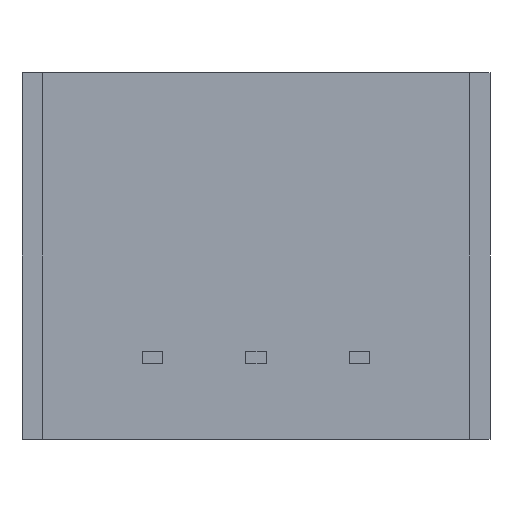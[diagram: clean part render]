
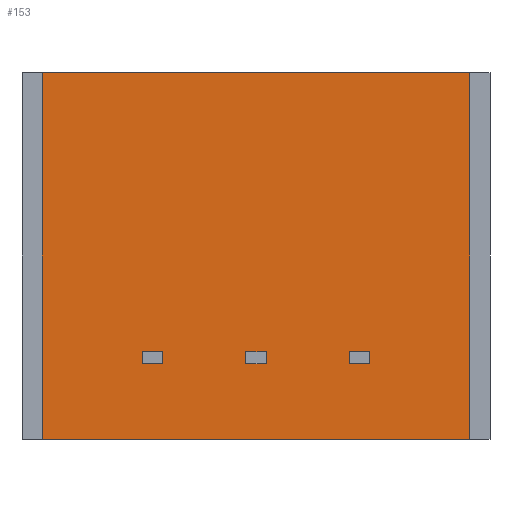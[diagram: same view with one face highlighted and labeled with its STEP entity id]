
A CAD part, front view. The second image highlights one B-rep face of the part: STEP entity #153.
In plain terms, the highlighted planar face has unit normal (0, -1, 0).
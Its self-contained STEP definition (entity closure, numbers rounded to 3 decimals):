
#148=FACE_BOUND('',#227,.T.);
#149=FACE_BOUND('',#228,.T.);
#150=FACE_BOUND('',#229,.T.);
#151=FACE_BOUND('',#230,.T.);
#153=ADVANCED_FACE('',(#148,#149,#150,#151),#178,.F.);
#178=PLANE('',#596);
#227=EDGE_LOOP('',(#262,#263,#264,#265));
#228=EDGE_LOOP('',(#266,#267,#268,#269));
#229=EDGE_LOOP('',(#270,#271,#272,#273));
#230=EDGE_LOOP('',(#274,#275,#276,#277));
#262=ORIENTED_EDGE('',*,*,#422,.F.);
#263=ORIENTED_EDGE('',*,*,#423,.F.);
#264=ORIENTED_EDGE('',*,*,#424,.F.);
#265=ORIENTED_EDGE('',*,*,#425,.F.);
#266=ORIENTED_EDGE('',*,*,#426,.T.);
#267=ORIENTED_EDGE('',*,*,#416,.F.);
#268=ORIENTED_EDGE('',*,*,#427,.F.);
#269=ORIENTED_EDGE('',*,*,#428,.F.);
#270=ORIENTED_EDGE('',*,*,#429,.F.);
#271=ORIENTED_EDGE('',*,*,#430,.F.);
#272=ORIENTED_EDGE('',*,*,#431,.F.);
#273=ORIENTED_EDGE('',*,*,#432,.F.);
#274=ORIENTED_EDGE('',*,*,#433,.F.);
#275=ORIENTED_EDGE('',*,*,#434,.F.);
#276=ORIENTED_EDGE('',*,*,#435,.F.);
#277=ORIENTED_EDGE('',*,*,#436,.F.);
#376=VERTEX_POINT('',#737);
#377=VERTEX_POINT('',#739);
#382=VERTEX_POINT('',#751);
#383=VERTEX_POINT('',#752);
#384=VERTEX_POINT('',#754);
#385=VERTEX_POINT('',#756);
#386=VERTEX_POINT('',#759);
#387=VERTEX_POINT('',#761);
#388=VERTEX_POINT('',#764);
#389=VERTEX_POINT('',#765);
#390=VERTEX_POINT('',#767);
#391=VERTEX_POINT('',#769);
#392=VERTEX_POINT('',#772);
#393=VERTEX_POINT('',#773);
#394=VERTEX_POINT('',#775);
#395=VERTEX_POINT('',#777);
#416=EDGE_CURVE('',#376,#377,#476,.T.);
#422=EDGE_CURVE('',#382,#383,#482,.T.);
#423=EDGE_CURVE('',#384,#382,#483,.T.);
#424=EDGE_CURVE('',#385,#384,#484,.T.);
#425=EDGE_CURVE('',#383,#385,#485,.T.);
#426=EDGE_CURVE('',#386,#377,#486,.T.);
#427=EDGE_CURVE('',#387,#376,#487,.T.);
#428=EDGE_CURVE('',#386,#387,#488,.T.);
#429=EDGE_CURVE('',#388,#389,#489,.T.);
#430=EDGE_CURVE('',#390,#388,#490,.T.);
#431=EDGE_CURVE('',#391,#390,#491,.T.);
#432=EDGE_CURVE('',#389,#391,#492,.T.);
#433=EDGE_CURVE('',#392,#393,#493,.T.);
#434=EDGE_CURVE('',#394,#392,#494,.T.);
#435=EDGE_CURVE('',#395,#394,#495,.T.);
#436=EDGE_CURVE('',#393,#395,#496,.T.);
#476=LINE('',#738,#536);
#482=LINE('',#750,#542);
#483=LINE('',#753,#543);
#484=LINE('',#755,#544);
#485=LINE('',#757,#545);
#486=LINE('',#758,#546);
#487=LINE('',#760,#547);
#488=LINE('',#762,#548);
#489=LINE('',#763,#549);
#490=LINE('',#766,#550);
#491=LINE('',#768,#551);
#492=LINE('',#770,#552);
#493=LINE('',#771,#553);
#494=LINE('',#774,#554);
#495=LINE('',#776,#555);
#496=LINE('',#778,#556);
#536=VECTOR('',#624,1.);
#542=VECTOR('',#632,1.);
#543=VECTOR('',#633,1.);
#544=VECTOR('',#634,1.);
#545=VECTOR('',#635,1.);
#546=VECTOR('',#636,1.);
#547=VECTOR('',#637,1.);
#548=VECTOR('',#638,1.);
#549=VECTOR('',#639,1.);
#550=VECTOR('',#640,1.);
#551=VECTOR('',#641,1.);
#552=VECTOR('',#642,1.);
#553=VECTOR('',#643,1.);
#554=VECTOR('',#644,1.);
#555=VECTOR('',#645,1.);
#556=VECTOR('',#646,1.);
#596=AXIS2_PLACEMENT_3D('',#779,#647,#648);
#624=DIRECTION('',(1.,0.,0.));
#632=DIRECTION('',(0.,0.,1.));
#633=DIRECTION('',(1.,0.,0.));
#634=DIRECTION('',(0.,0.,-1.));
#635=DIRECTION('',(-1.,0.,0.));
#636=DIRECTION('',(0.,0.,1.));
#637=DIRECTION('',(0.,0.,1.));
#638=DIRECTION('',(-1.,0.,0.));
#639=DIRECTION('',(0.,0.,1.));
#640=DIRECTION('',(1.,0.,0.));
#641=DIRECTION('',(0.,0.,-1.));
#642=DIRECTION('',(-1.,0.,0.));
#643=DIRECTION('',(0.,0.,1.));
#644=DIRECTION('',(1.,0.,0.));
#645=DIRECTION('',(0.,0.,-1.));
#646=DIRECTION('',(-1.,0.,0.));
#647=DIRECTION('',(0.,1.,0.));
#648=DIRECTION('',(0.,0.,-1.));
#737=CARTESIAN_POINT('',(-5.25,0.5,4.5));
#738=CARTESIAN_POINT('',(-5.75,0.5,4.5));
#739=CARTESIAN_POINT('',(5.25,0.5,4.5));
#750=CARTESIAN_POINT('',(2.79,0.5,-2.65));
#751=CARTESIAN_POINT('',(2.79,0.5,-2.65));
#752=CARTESIAN_POINT('',(2.79,0.5,-2.35));
#753=CARTESIAN_POINT('',(2.29,0.5,-2.65));
#754=CARTESIAN_POINT('',(2.29,0.5,-2.65));
#755=CARTESIAN_POINT('',(2.29,0.5,-2.65));
#756=CARTESIAN_POINT('',(2.29,0.5,-2.35));
#757=CARTESIAN_POINT('',(2.29,0.5,-2.35));
#758=CARTESIAN_POINT('',(5.25,0.5,-8.75));
#759=CARTESIAN_POINT('',(5.25,0.5,-4.5));
#760=CARTESIAN_POINT('',(-5.25,0.5,-8.75));
#761=CARTESIAN_POINT('',(-5.25,0.5,-4.5));
#762=CARTESIAN_POINT('',(-5.75,0.5,-4.5));
#763=CARTESIAN_POINT('',(0.25,0.5,-2.65));
#764=CARTESIAN_POINT('',(0.25,0.5,-2.65));
#765=CARTESIAN_POINT('',(0.25,0.5,-2.35));
#766=CARTESIAN_POINT('',(-0.25,0.5,-2.65));
#767=CARTESIAN_POINT('',(-0.25,0.5,-2.65));
#768=CARTESIAN_POINT('',(-0.25,0.5,-2.65));
#769=CARTESIAN_POINT('',(-0.25,0.5,-2.35));
#770=CARTESIAN_POINT('',(-0.25,0.5,-2.35));
#771=CARTESIAN_POINT('',(-2.29,0.5,-2.65));
#772=CARTESIAN_POINT('',(-2.29,0.5,-2.65));
#773=CARTESIAN_POINT('',(-2.29,0.5,-2.35));
#774=CARTESIAN_POINT('',(-2.79,0.5,-2.65));
#775=CARTESIAN_POINT('',(-2.79,0.5,-2.65));
#776=CARTESIAN_POINT('',(-2.79,0.5,-2.65));
#777=CARTESIAN_POINT('',(-2.79,0.5,-2.35));
#778=CARTESIAN_POINT('',(-2.79,0.5,-2.35));
#779=CARTESIAN_POINT('',(5.25,0.5,-8.75));
